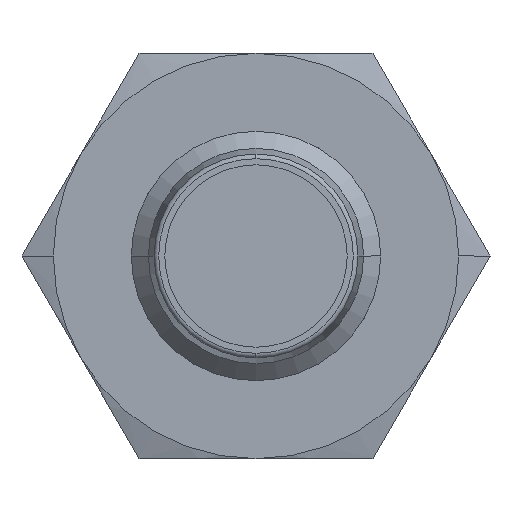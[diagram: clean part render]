
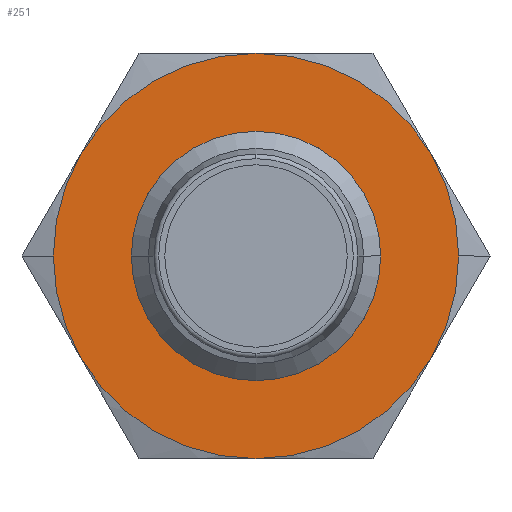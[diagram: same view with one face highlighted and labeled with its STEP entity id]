
A CAD part, left-side view. The second image highlights one B-rep face of the part: STEP entity #251.
In plain terms, the highlighted planar face has unit normal (-1, 0, 0).
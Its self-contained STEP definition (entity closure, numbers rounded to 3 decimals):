
#251 = ADVANCED_FACE( '', ( #451, #452 ), #453, .T. );
#451 = FACE_BOUND( '', #684, .T. );
#452 = FACE_OUTER_BOUND( '', #685, .T. );
#453 = PLANE( '', #686 );
#684 = EDGE_LOOP( '', ( #1325, #1326 ) );
#685 = EDGE_LOOP( '', ( #1327, #1328, #1329, #1330, #1331, #1332, #1333, #1334 ) );
#686 = AXIS2_PLACEMENT_3D( '', #1335, #1336, #1337 );
#1325 = ORIENTED_EDGE( '', *, *, #1690, .T. );
#1326 = ORIENTED_EDGE( '', *, *, #1678, .T. );
#1327 = ORIENTED_EDGE( '', *, *, #1728, .T. );
#1328 = ORIENTED_EDGE( '', *, *, #1667, .T. );
#1329 = ORIENTED_EDGE( '', *, *, #1723, .T. );
#1330 = ORIENTED_EDGE( '', *, *, #1724, .T. );
#1331 = ORIENTED_EDGE( '', *, *, #1669, .T. );
#1332 = ORIENTED_EDGE( '', *, *, #1725, .T. );
#1333 = ORIENTED_EDGE( '', *, *, #1726, .T. );
#1334 = ORIENTED_EDGE( '', *, *, #1727, .T. );
#1335 = CARTESIAN_POINT( '', ( 30., 3.25, 0. ) );
#1336 = DIRECTION( '', ( -1., 0., 0. ) );
#1337 = DIRECTION( '', ( 0., 1., 0. ) );
#1667 = EDGE_CURVE( '', #1970, #1972, #1974, .T. );
#1669 = EDGE_CURVE( '', #1978, #1975, #1979, .T. );
#1678 = EDGE_CURVE( '', #1996, #1993, #1997, .T. );
#1690 = EDGE_CURVE( '', #1993, #1996, #2014, .T. );
#1723 = EDGE_CURVE( '', #1972, #2020, #2063, .T. );
#1724 = EDGE_CURVE( '', #2020, #1978, #2064, .T. );
#1725 = EDGE_CURVE( '', #1975, #2051, #2065, .T. );
#1726 = EDGE_CURVE( '', #2051, #2043, #2066, .T. );
#1727 = EDGE_CURVE( '', #2043, #2030, #2067, .T. );
#1728 = EDGE_CURVE( '', #2030, #1970, #2068, .T. );
#1970 = VERTEX_POINT( '', #2530 );
#1972 = VERTEX_POINT( '', #2533 );
#1974 = CIRCLE( '', #2544, 6.5 );
#1975 = VERTEX_POINT( '', #2545 );
#1978 = VERTEX_POINT( '', #2549 );
#1979 = CIRCLE( '', #2550, 6.5 );
#1993 = VERTEX_POINT( '', #2593 );
#1996 = VERTEX_POINT( '', #2597 );
#1997 = CIRCLE( '', #2598, 4. );
#2014 = CIRCLE( '', #2620, 4. );
#2020 = VERTEX_POINT( '', #2636 );
#2030 = VERTEX_POINT( '', #2684 );
#2043 = VERTEX_POINT( '', #2761 );
#2051 = VERTEX_POINT( '', #2806 );
#2063 = CIRCLE( '', #2855, 6.5 );
#2064 = CIRCLE( '', #2856, 6.5 );
#2065 = CIRCLE( '', #2857, 6.5 );
#2066 = CIRCLE( '', #2858, 6.5 );
#2067 = CIRCLE( '', #2859, 6.5 );
#2068 = CIRCLE( '', #2860, 6.5 );
#2530 = CARTESIAN_POINT( '', ( 30., 6.5, 0. ) );
#2533 = CARTESIAN_POINT( '', ( 30., 5.629, -3.25 ) );
#2544 = AXIS2_PLACEMENT_3D( '', #3397, #3398, #3399 );
#2545 = CARTESIAN_POINT( '', ( 30., -6.5, 0. ) );
#2549 = CARTESIAN_POINT( '', ( 30., -5.629, -3.25 ) );
#2550 = AXIS2_PLACEMENT_3D( '', #3401, #3402, #3403 );
#2593 = CARTESIAN_POINT( '', ( 30., 4., 0. ) );
#2597 = CARTESIAN_POINT( '', ( 30., -4., 0. ) );
#2598 = AXIS2_PLACEMENT_3D( '', #3413, #3414, #3415 );
#2620 = AXIS2_PLACEMENT_3D( '', #3439, #3440, #3441 );
#2636 = CARTESIAN_POINT( '', ( 30., 0., -6.5 ) );
#2684 = CARTESIAN_POINT( '', ( 30., 5.629, 3.25 ) );
#2761 = CARTESIAN_POINT( '', ( 30., 0., 6.5 ) );
#2806 = CARTESIAN_POINT( '', ( 30., -5.629, 3.25 ) );
#2855 = AXIS2_PLACEMENT_3D( '', #3466, #3467, #3468 );
#2856 = AXIS2_PLACEMENT_3D( '', #3469, #3470, #3471 );
#2857 = AXIS2_PLACEMENT_3D( '', #3472, #3473, #3474 );
#2858 = AXIS2_PLACEMENT_3D( '', #3475, #3476, #3477 );
#2859 = AXIS2_PLACEMENT_3D( '', #3478, #3479, #3480 );
#2860 = AXIS2_PLACEMENT_3D( '', #3481, #3482, #3483 );
#3397 = CARTESIAN_POINT( '', ( 30., 0., 0. ) );
#3398 = DIRECTION( '', ( -1., 0., 0. ) );
#3399 = DIRECTION( '', ( 0., 1., 0. ) );
#3401 = CARTESIAN_POINT( '', ( 30., 0., 0. ) );
#3402 = DIRECTION( '', ( -1., 0., 0. ) );
#3403 = DIRECTION( '', ( 0., 1., 0. ) );
#3413 = CARTESIAN_POINT( '', ( 30., 0., 0. ) );
#3414 = DIRECTION( '', ( 1., 0., 0. ) );
#3415 = DIRECTION( '', ( 0., 1., 0. ) );
#3439 = CARTESIAN_POINT( '', ( 30., 0., 0. ) );
#3440 = DIRECTION( '', ( 1., 0., 0. ) );
#3441 = DIRECTION( '', ( 0., 1., 0. ) );
#3466 = CARTESIAN_POINT( '', ( 30., 0., 0. ) );
#3467 = DIRECTION( '', ( -1., 0., 0. ) );
#3468 = DIRECTION( '', ( 0., 1., 0. ) );
#3469 = CARTESIAN_POINT( '', ( 30., 0., 0. ) );
#3470 = DIRECTION( '', ( -1., 0., 0. ) );
#3471 = DIRECTION( '', ( 0., 1., 0. ) );
#3472 = CARTESIAN_POINT( '', ( 30., 0., 0. ) );
#3473 = DIRECTION( '', ( -1., 0., 0. ) );
#3474 = DIRECTION( '', ( 0., 1., 0. ) );
#3475 = CARTESIAN_POINT( '', ( 30., 0., 0. ) );
#3476 = DIRECTION( '', ( -1., 0., 0. ) );
#3477 = DIRECTION( '', ( 0., 1., 0. ) );
#3478 = CARTESIAN_POINT( '', ( 30., 0., 0. ) );
#3479 = DIRECTION( '', ( -1., 0., 0. ) );
#3480 = DIRECTION( '', ( 0., 1., 0. ) );
#3481 = CARTESIAN_POINT( '', ( 30., 0., 0. ) );
#3482 = DIRECTION( '', ( -1., 0., 0. ) );
#3483 = DIRECTION( '', ( 0., 1., 0. ) );
